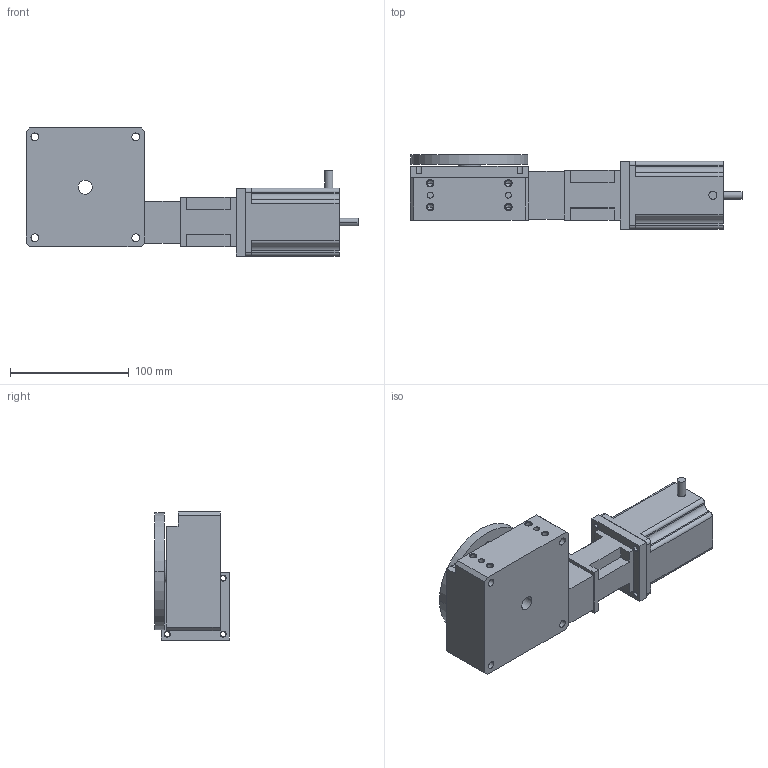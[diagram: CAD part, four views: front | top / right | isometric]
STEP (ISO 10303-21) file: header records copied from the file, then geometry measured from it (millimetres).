
FILE_DESCRIPTION((''),'2;1');
FILE_NAME('R100M6MP3E0_ASM','2009-07-02T',('FK20128'),(''),'PRO/ENGINEER BY PARAMETRIC TECHNOLOGY CORPORATION, 2006200','PRO/ENGINEER BY PARAMETRIC TECHNOLOGY CORPORATION, 2006200','');
FILE_SCHEMA(('CONFIG_CONTROL_DESIGN'));
Length unit declared in the file: millimetre
Products named in the file (4): R100M; R100M-M22; RXXXM-HV233; R100M6MP3E0_ASM
Assembly tree (3 placements, depth 2):
  R100M6MP3E0_ASM
    R100M
    R100M-M22
    RXXXM-HV233
Bounding box: 279.89 x 62.58 x 107.96 mm (x, y, z)
Volume: 827113.7 mm3; surface area: 116322.3 mm2
Topology: 3 solids, 21 shells, 287 faces, 730 edges, 486 vertices
Faces by surface type: cylinder 156, plane 109, cone 22
Entity records: 8934 total; most frequent: DIRECTION 1676, CARTESIAN_POINT 1502, ORIENTED_EDGE 1364, EDGE_CURVE 718, AXIS2_PLACEMENT_3D 660, VERTEX_POINT 486, EDGE_LOOP 378, CIRCLE 362
